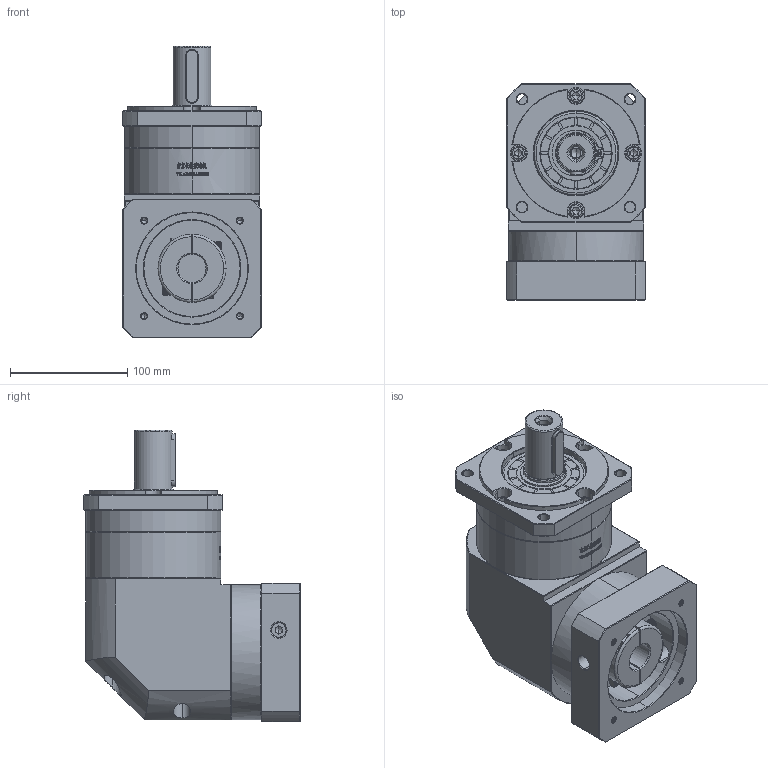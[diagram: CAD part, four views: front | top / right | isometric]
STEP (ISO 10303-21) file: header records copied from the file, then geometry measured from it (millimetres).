
FILE_DESCRIPTION (( 'STEP AP214' ), '1' );
FILE_NAME ('ZFR120A-D32-L1-24-95-115-M6.step', '2023-03-08T08:24:50', ( '' ), ( '' ), 'SwSTEP 2.0', 'SolidWorks 2016', '' );
FILE_SCHEMA (( 'AUTOMOTIVE_DESIGN' ));
Length unit declared in the file: millimetre
Products named in the file (1): ZFR120A-D32-L1-24-95-115-M6
Bounding box: 118 x 183.9 x 248 mm (x, y, z)
Volume: 2811393.8 mm3; surface area: 236720.4 mm2
Topology: 6 solids, 6 shells, 2857 faces, 7623 edges, 4910 vertices
Faces by surface type: plane 1483, bspline 610, cylinder 419, cone 337, torus 8
Entity records: 158322 total; most frequent: CARTESIAN_POINT 61509, ORIENTED_EDGE 15186, DIRECTION 11042, EDGE_CURVE 7593, VERTEX_POINT 4910, LINE 4728, VECTOR 4728, AXIS2_PLACEMENT_3D 3157
